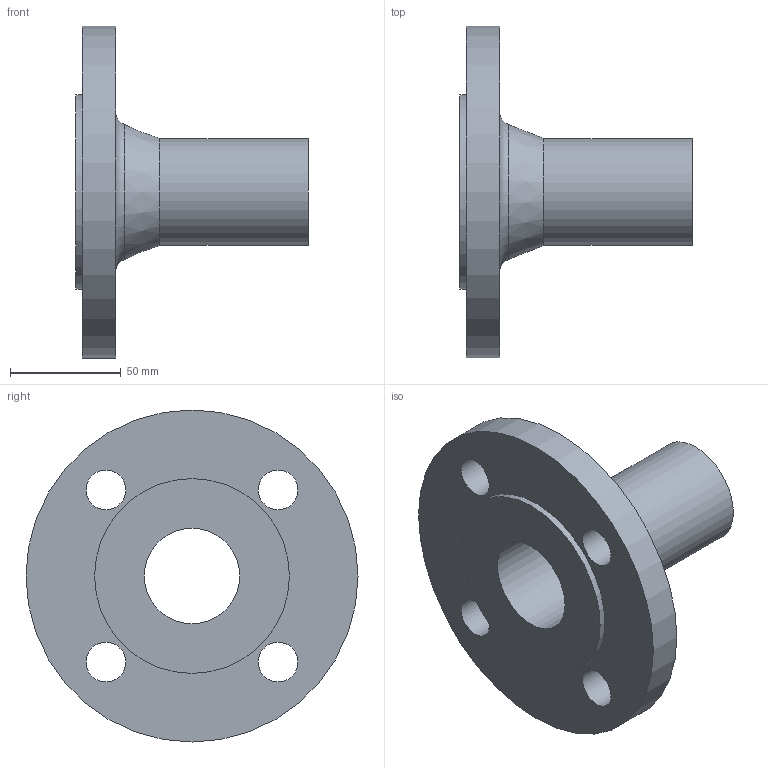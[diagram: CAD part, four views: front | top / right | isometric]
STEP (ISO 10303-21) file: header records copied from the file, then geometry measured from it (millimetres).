
FILE_DESCRIPTION(/* description */ (''),/* implementation_level */ '2;1');
FILE_NAME(/* name */ 'C:\Users\LK_9K\Desktop\STRAUB FLANSCHADAPTER DN40.stp',/* time_stamp */ '2021-04-12T08:10:05+02:00',/* author */ ('LK_9K'),/* organization */ (''),/* preprocessor_version */ 'ST-DEVELOPER v18.1',/* originating_system */ 'Autodesk Inventor 2020',/* authorisation */ '');
FILE_SCHEMA (('AUTOMOTIVE_DESIGN { 1 0 10303 214 3 1 1 }'));
Length unit declared in the file: millimetre
Products named in the file (1): Bauteil1
Bounding box: 105 x 150 x 150 mm (x, y, z)
Volume: 283138.2 mm3; surface area: 68501.9 mm2
Topology: 1 solids, 1 shells, 16 faces, 46 edges, 35 vertices
Faces by surface type: cylinder 9, plane 5, torus 1, cone 1
Full cylindrical faces by diameter (mm): 18 x4, 43.1 x1, 44.3 x1, 48.3 x1, 88 x1, 150 x1
Entity records: 631 total; most frequent: DIRECTION 116, CARTESIAN_POINT 98, ORIENTED_EDGE 92, AXIS2_PLACEMENT_3D 53, EDGE_CURVE 46, CIRCLE 36, VERTEX_POINT 35, EDGE_LOOP 29
